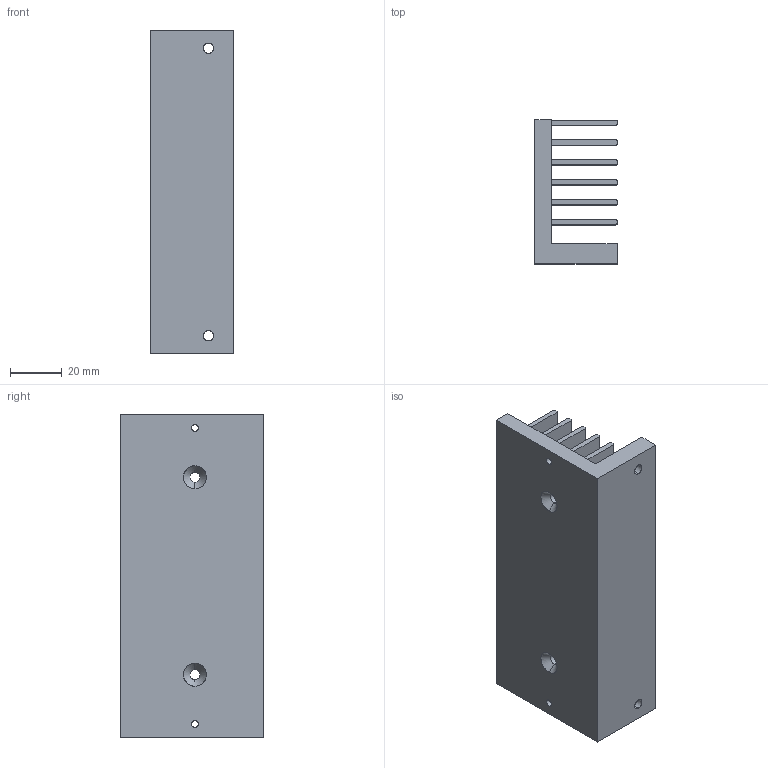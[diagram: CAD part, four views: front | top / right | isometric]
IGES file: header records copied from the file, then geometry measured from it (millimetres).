
Start section: SolidWorks IGES file using analytic representation for surfaces
Global section: file name: \\Engineerser\Mechanical\ALL Users\Chris Roy\Projects\motion\Data Sheets\XSJ-HK.IGS; native system: SolidWorks 2009; preprocessor: SolidWorks 2009; author: croy; date: 090918.121950; units: inch
Bounding box: 31.75 x 55.37 x 124.46 mm (x, y, z)
Surface area: 54705.5 mm2 (no closed solid volume)
Topology: 0 solids, 0 shells, 67 faces, 814 edges, 814 vertices
Faces by surface type: bspline 39, revolution 28
